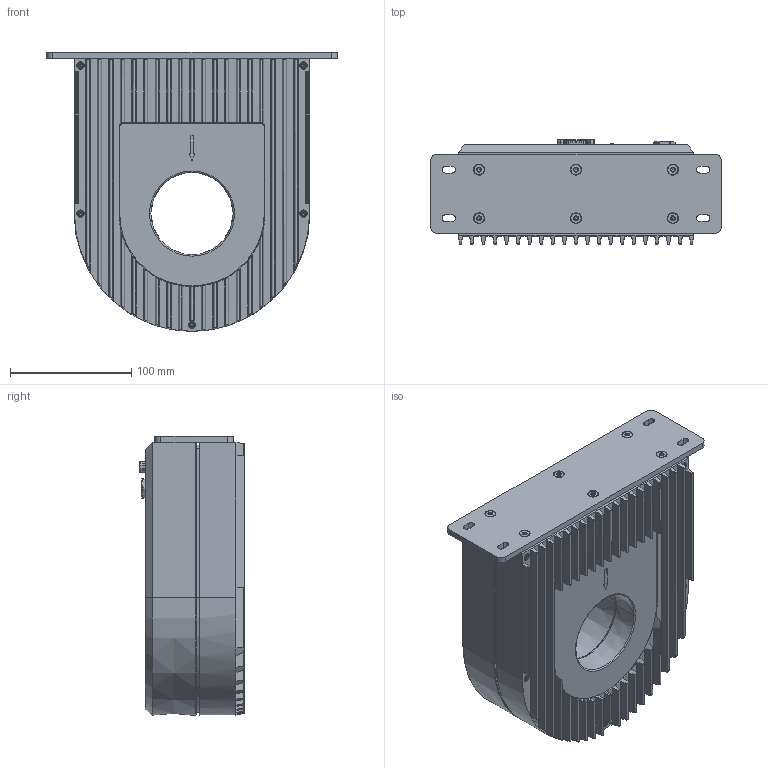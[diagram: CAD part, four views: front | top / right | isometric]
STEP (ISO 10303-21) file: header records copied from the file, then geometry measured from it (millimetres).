
FILE_DESCRIPTION (( 'STEP AP214' ), '1' );
FILE_NAME ('1212100015_DL2000ID.STEP', '2020-08-27T13:01:05', ( '' ), ( '' ), 'SwSTEP 2.0', 'SolidWorks 2019', '' );
FILE_SCHEMA (( 'AUTOMOTIVE_DESIGN' ));
Length unit declared in the file: millimetre
Products named in the file (1): 1212100015_DL2000ID
Bounding box: 240 x 86.6 x 230.37 mm (x, y, z)
Surface area: 226870.9 mm2 (no closed solid volume)
Topology: 0 solids, 28 shells, 761 faces, 2479 edges, 1690 vertices
Faces by surface type: plane 266, cylinder 236, cone 174, torus 45, bspline 38, sphere 2
Entity records: 38588 total; most frequent: CARTESIAN_POINT 9921, ORIENTED_EDGE 4129, DIRECTION 3921, EDGE_CURVE 2435, VERTEX_POINT 1688, AXIS2_PLACEMENT_3D 1410, VECTOR 1101, LINE 1101
